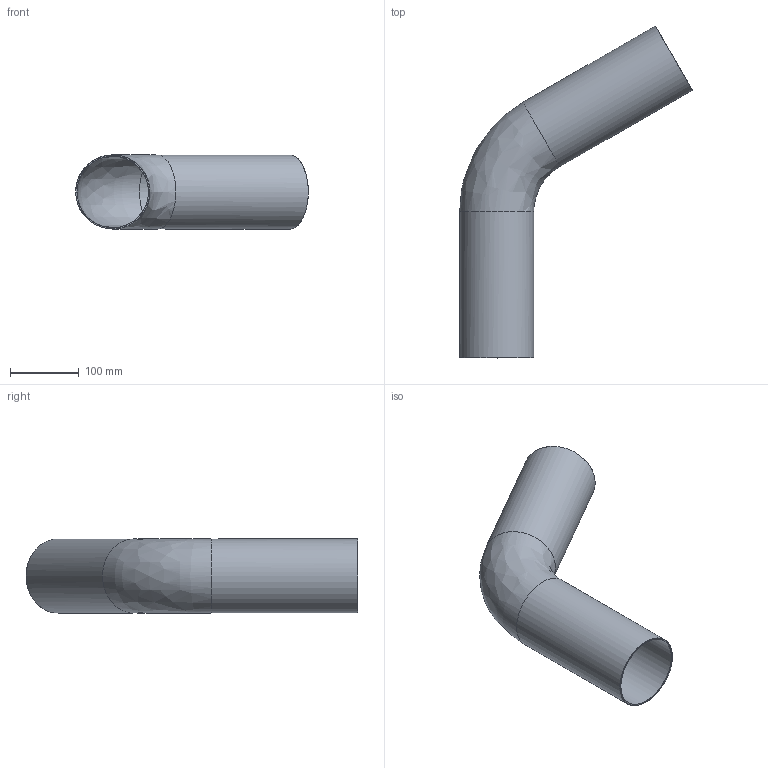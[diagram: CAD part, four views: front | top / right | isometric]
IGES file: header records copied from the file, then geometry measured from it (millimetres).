
Global section: file name: C72AM; native system: Autodesk Inventor 2023; preprocessor: unknown; author: lvalentini; date: 20230921.121019; units: millimetre
Bounding box: 339.01 x 483.67 x 108 mm (x, y, z)
Volume: 382349.1 mm3; surface area: 382693.9 mm2
Topology: 1 solids, 1 shells, 12 faces, 26 edges, 16 vertices
Faces by surface type: bspline 12
